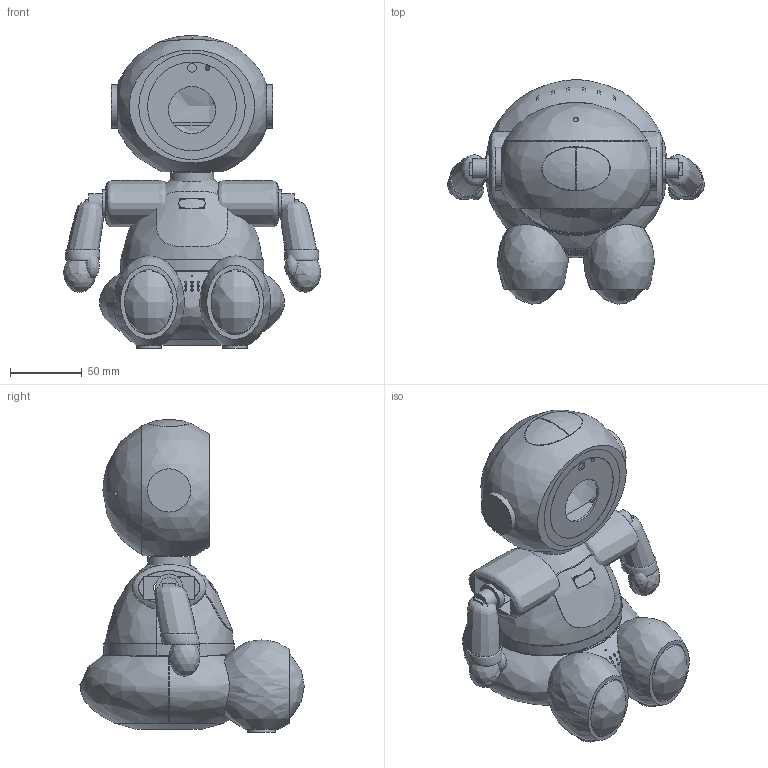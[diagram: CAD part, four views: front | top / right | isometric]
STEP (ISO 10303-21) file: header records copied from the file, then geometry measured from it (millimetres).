
FILE_DESCRIPTION(('FreeCAD Model'),'2;1');
FILE_NAME('Open CASCADE Shape Model','2026-11-20T08:25:42',('FreeCAD'),( 'FreeCAD'),'Open CASCADE STEP processor 7.8','FreeCAD','Unknown');
FILE_SCHEMA(('AUTOMOTIVE_DESIGN { 1 0 10303 214 1 1 1 1 }'));
Products named in the file (1): Open CASCADE STEP translator 7.8 108
Bounding box: 179.51 x 156.54 x 218.22 mm (x, y, z)
Volume: 504649.4 mm3; surface area: 293086.7 mm2
Topology: 92 solids, 94 shells, 1816 faces, 5002 edges, 3352 vertices
Faces by surface type: plane 1570, cylinder 172, bspline 68, extrusion 6
Full cylindrical faces by diameter (mm): 1.6 x15, 3.2 x1, 3.4 x95, 3.6 x1, 4.4 x2, 6 x1, 6.4 x2, 6.8 x1, 8 x1, 11 x1, 13 x2, 14 x2, 15 x1, 15.6 x1, 19 x2, 24 x2, 27 x1, 28.6 x1, 28.8 x1, 30.1 x3, 31 x1, 32.64 x1, 39 x1, 61.92 x2, 74.175 x2
Entity records: 94383 total; most frequent: CARTESIAN_POINT 49513, ORIENTED_EDGE 9980, DIRECTION 7904, EDGE_CURVE 4990, VECTOR 3542, LINE 3536, VERTEX_POINT 3352, AXIS2_PLACEMENT_3D 2181
